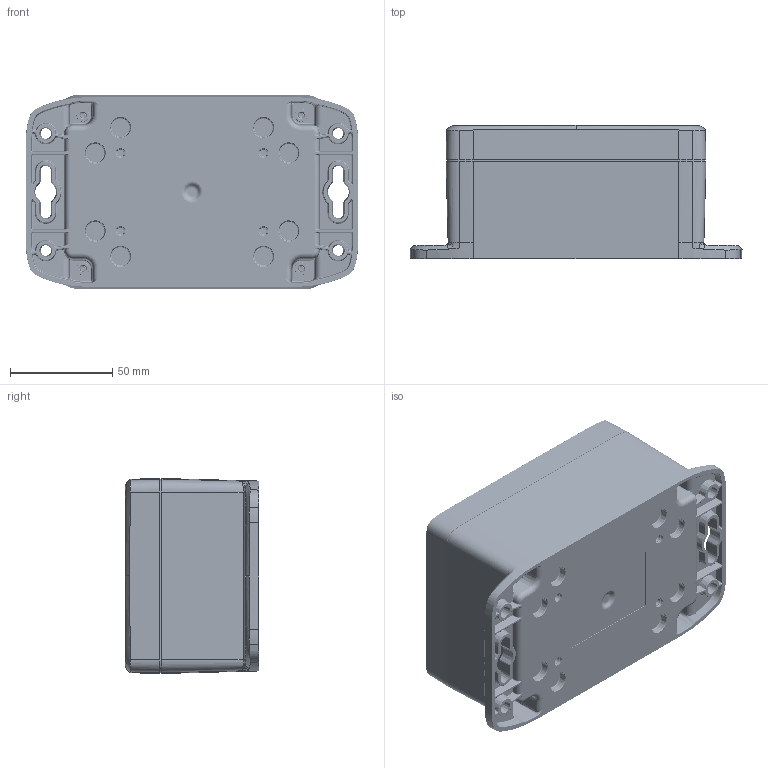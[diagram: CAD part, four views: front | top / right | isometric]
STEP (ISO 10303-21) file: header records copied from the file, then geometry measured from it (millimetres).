
FILE_DESCRIPTION (( 'STEP AP214' ), '1' );
FILE_NAME ('HN-45-04.STEP', '2026-02-23T17:55:57', ( '' ), ( '' ), 'SwSTEP 2.0', 'SolidWorks 2025', '' );
FILE_SCHEMA (( 'AUTOMOTIVE_DESIGN' ));
Length unit declared in the file: inch
Products named in the file (9): INSERTS-3_INSERTS-3; HN-45-04; HN-45C_HN-45C-02; HN-45B_HN-45BF-00; LABEL-100; SCREWS-054_DEFAULT; HN-45CG_HN-45CG-02; HN-45BN_HN-45BFN-00; HN-45G_default
Assembly tree (14 placements, depth 3):
  HN-45-04
    HN-45B_HN-45BF-00
      HN-45BN_HN-45BFN-00
      INSERTS-3_INSERTS-3  x4
      LABEL-100
    HN-45CG_HN-45CG-02
      HN-45C_HN-45C-02
      HN-45G_default
    SCREWS-054_DEFAULT  x4
Bounding box: 162.17 x 65.26 x 95.25 mm (x, y, z)
Volume: 198353.3 mm3; surface area: 138066.2 mm2
Topology: 11 solids, 13 shells, 4490 faces, 10804 edges, 6310 vertices
Faces by surface type: bspline 1078, torus 1004, cone 930, cylinder 801, plane 607, sphere 70
Entity records: 155014 total; most frequent: CARTESIAN_POINT 70243, ORIENTED_EDGE 19022, DIRECTION 16552, EDGE_CURVE 9514, AXIS2_PLACEMENT_3D 7188, VERTEX_POINT 5636, CIRCLE 4179, EDGE_LOOP 4083
